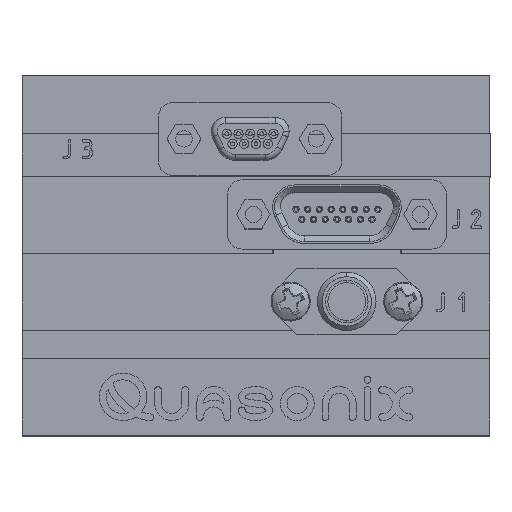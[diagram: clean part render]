
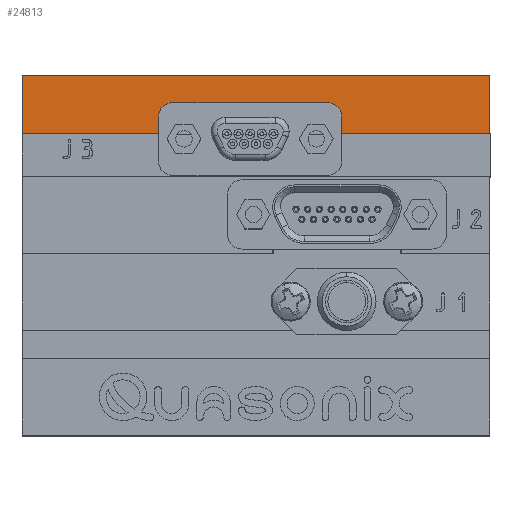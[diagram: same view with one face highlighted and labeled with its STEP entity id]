
A CAD part, top view. The second image highlights one B-rep face of the part: STEP entity #24813.
In plain terms, the highlighted planar face has unit normal (0, 0, 1).
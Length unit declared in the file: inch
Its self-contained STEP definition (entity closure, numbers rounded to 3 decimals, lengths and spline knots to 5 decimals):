
#347 = CARTESIAN_POINT ( 'NONE',  ( -0.375, 1.2886, 0. ) ) ;
#598 = EDGE_CURVE ( 'NONE', #32498, #19467, #33379, .T. ) ;
#1214 = CARTESIAN_POINT ( 'NONE',  ( -1., 1.5365, 0. ) ) ;
#1615 = EDGE_CURVE ( 'NONE', #23952, #26898, #27300, .T. ) ;
#1773 = EDGE_CURVE ( 'NONE', #21742, #23952, #29587, .T. ) ;
#1813 = VECTOR ( 'NONE', #28032, 39.37008 ) ;
#3264 = VECTOR ( 'NONE', #9034, 39.37008 ) ;
#3563 = CARTESIAN_POINT ( 'NONE',  ( -0.375, 1.3326, 0. ) ) ;
#4249 = DIRECTION ( 'NONE',  ( 1., 0., 0. ) ) ;
#4267 = CARTESIAN_POINT ( 'NONE',  ( 0.195, 1.3326, 0. ) ) ;
#4717 = LINE ( 'NONE', #1214, #35570 ) ;
#5545 = LINE ( 'NONE', #24645, #35439 ) ;
#6304 = PLANE ( 'NONE',  #18606 ) ;
#6496 = CARTESIAN_POINT ( 'NONE',  ( -1., 1.2886, 0. ) ) ;
#6501 = CARTESIAN_POINT ( 'NONE',  ( 0.325, 1.2886, 0. ) ) ;
#6554 = EDGE_CURVE ( 'NONE', #10631, #28800, #13052, .T. ) ;
#6708 = EDGE_CURVE ( 'NONE', #19467, #18474, #30369, .T. ) ;
#6763 = VERTEX_POINT ( 'NONE', #28067 ) ;
#7533 = ORIENTED_EDGE ( 'NONE', *, *, #25863, .F. ) ;
#7701 = LINE ( 'NONE', #18433, #22720 ) ;
#7928 = CARTESIAN_POINT ( 'NONE',  ( -0.245, 1.4026, 0. ) ) ;
#9034 = DIRECTION ( 'NONE',  ( 0., -1., 0. ) ) ;
#9456 = VECTOR ( 'NONE', #34796, 39.37008 ) ;
#10631 = VERTEX_POINT ( 'NONE', #24436 ) ;
#10981 = CARTESIAN_POINT ( 'NONE',  ( -0.375, 1.3326, 0. ) ) ;
#12569 = VECTOR ( 'NONE', #24439, 39.37008 ) ;
#12698 = DIRECTION ( 'NONE',  ( 0., -1., 0. ) ) ;
#13052 = LINE ( 'NONE', #34938, #3264 ) ;
#13658 = VECTOR ( 'NONE', #23123, 39.37008 ) ;
#14083 = CARTESIAN_POINT ( 'NONE',  ( -0.245, 1.4176, 0. ) ) ;
#14587 = ORIENTED_EDGE ( 'NONE', *, *, #15098, .F. ) ;
#14782 = CARTESIAN_POINT ( 'NONE',  ( -1., 1.2886, 0. ) ) ;
#14834 = ORIENTED_EDGE ( 'NONE', *, *, #6554, .T. ) ;
#14918 = VERTEX_POINT ( 'NONE', #10981 ) ;
#15098 = EDGE_CURVE ( 'NONE', #21742, #6763, #4717, .T. ) ;
#15364 = ORIENTED_EDGE ( 'NONE', *, *, #38675, .F. ) ;
#15430 = DIRECTION ( 'NONE',  ( -1., 0., 0. ) ) ;
#15623 = VECTOR ( 'NONE', #25994, 39.37008 ) ;
#15624 = ORIENTED_EDGE ( 'NONE', *, *, #1615, .T. ) ;
#15626 = EDGE_LOOP ( 'NONE', ( #35196, #30376, #15364, #30053, #14834, #20853, #7533, #14587, #24346, #15624, #36668, #31813 ) ) ;
#16960 = DIRECTION ( 'NONE',  ( 0., -1., 0. ) ) ;
#17067 = CARTESIAN_POINT ( 'NONE',  ( -0.245, 1.4176, 0. ) ) ;
#17387 = VECTOR ( 'NONE', #27498, 39.37008 ) ;
#18433 = CARTESIAN_POINT ( 'NONE',  ( -0.245, 1.3326, 0. ) ) ;
#18474 = VERTEX_POINT ( 'NONE', #29596 ) ;
#18606 = AXIS2_PLACEMENT_3D ( 'NONE', #27358, #33303, #15430 ) ;
#19467 = VERTEX_POINT ( 'NONE', #14083 ) ;
#20326 = CARTESIAN_POINT ( 'NONE',  ( 0.195, 1.3326, 0. ) ) ;
#20564 = LINE ( 'NONE', #6496, #12569 ) ;
#20853 = ORIENTED_EDGE ( 'NONE', *, *, #38590, .T. ) ;
#21450 = DIRECTION ( 'NONE',  ( -1., 0., 0. ) ) ;
#21742 = VERTEX_POINT ( 'NONE', #33916 ) ;
#22720 = VECTOR ( 'NONE', #21450, 39.37008 ) ;
#23123 = DIRECTION ( 'NONE',  ( 0., -1., 0. ) ) ;
#23378 = DIRECTION ( 'NONE',  ( -1., 0., 0. ) ) ;
#23952 = VERTEX_POINT ( 'NONE', #14782 ) ;
#24109 = LINE ( 'NONE', #20326, #38021 ) ;
#24346 = ORIENTED_EDGE ( 'NONE', *, *, #1773, .T. ) ;
#24436 = CARTESIAN_POINT ( 'NONE',  ( 0.325, 1.3326, 0. ) ) ;
#24439 = DIRECTION ( 'NONE',  ( 1., 0., 0. ) ) ;
#24645 = CARTESIAN_POINT ( 'NONE',  ( 1., 1.5365, 0. ) ) ;
#24813 = ADVANCED_FACE ( 'NONE', ( #33777 ), #6304, .F. ) ;
#25070 = CARTESIAN_POINT ( 'NONE',  ( 0.195, 1.4026, 0. ) ) ;
#25863 = EDGE_CURVE ( 'NONE', #6763, #35313, #5545, .T. ) ;
#25994 = DIRECTION ( 'NONE',  ( -1., 0., 0. ) ) ;
#26655 = LINE ( 'NONE', #25070, #1813 ) ;
#26898 = VERTEX_POINT ( 'NONE', #347 ) ;
#27300 = LINE ( 'NONE', #34925, #9456 ) ;
#27358 = CARTESIAN_POINT ( 'NONE',  ( -1., 1.5365, 0. ) ) ;
#27498 = DIRECTION ( 'NONE',  ( 0., -1., 0. ) ) ;
#28026 = CARTESIAN_POINT ( 'NONE',  ( 1., 1.2886, 0. ) ) ;
#28032 = DIRECTION ( 'NONE',  ( 0., 1., 0. ) ) ;
#28067 = CARTESIAN_POINT ( 'NONE',  ( 1., 1.5365, 0. ) ) ;
#28241 = EDGE_CURVE ( 'NONE', #18474, #14918, #7701, .T. ) ;
#28800 = VERTEX_POINT ( 'NONE', #6501 ) ;
#29587 = LINE ( 'NONE', #33034, #13658 ) ;
#29596 = CARTESIAN_POINT ( 'NONE',  ( -0.245, 1.3326, 0. ) ) ;
#30053 = ORIENTED_EDGE ( 'NONE', *, *, #33998, .F. ) ;
#30369 = LINE ( 'NONE', #7928, #38264 ) ;
#30376 = ORIENTED_EDGE ( 'NONE', *, *, #598, .F. ) ;
#31813 = ORIENTED_EDGE ( 'NONE', *, *, #28241, .F. ) ;
#32498 = VERTEX_POINT ( 'NONE', #32845 ) ;
#32845 = CARTESIAN_POINT ( 'NONE',  ( 0.195, 1.4176, 0. ) ) ;
#33034 = CARTESIAN_POINT ( 'NONE',  ( -1., 1.5365, 0. ) ) ;
#33259 = LINE ( 'NONE', #3563, #17387 ) ;
#33303 = DIRECTION ( 'NONE',  ( 0., 0., -1. ) ) ;
#33379 = LINE ( 'NONE', #17067, #15623 ) ;
#33777 = FACE_OUTER_BOUND ( 'NONE', #15626, .T. ) ;
#33916 = CARTESIAN_POINT ( 'NONE',  ( -1., 1.5365, 0. ) ) ;
#33998 = EDGE_CURVE ( 'NONE', #10631, #37261, #24109, .T. ) ;
#34796 = DIRECTION ( 'NONE',  ( 1., 0., 0. ) ) ;
#34925 = CARTESIAN_POINT ( 'NONE',  ( -1., 1.2886, 0. ) ) ;
#34938 = CARTESIAN_POINT ( 'NONE',  ( 0.325, 1.3326, 0. ) ) ;
#35196 = ORIENTED_EDGE ( 'NONE', *, *, #6708, .F. ) ;
#35313 = VERTEX_POINT ( 'NONE', #28026 ) ;
#35439 = VECTOR ( 'NONE', #12698, 39.37008 ) ;
#35570 = VECTOR ( 'NONE', #4249, 39.37008 ) ;
#35739 = EDGE_CURVE ( 'NONE', #14918, #26898, #33259, .T. ) ;
#36668 = ORIENTED_EDGE ( 'NONE', *, *, #35739, .F. ) ;
#37261 = VERTEX_POINT ( 'NONE', #4267 ) ;
#38021 = VECTOR ( 'NONE', #23378, 39.37008 ) ;
#38264 = VECTOR ( 'NONE', #16960, 39.37008 ) ;
#38590 = EDGE_CURVE ( 'NONE', #28800, #35313, #20564, .T. ) ;
#38675 = EDGE_CURVE ( 'NONE', #37261, #32498, #26655, .T. ) ;
